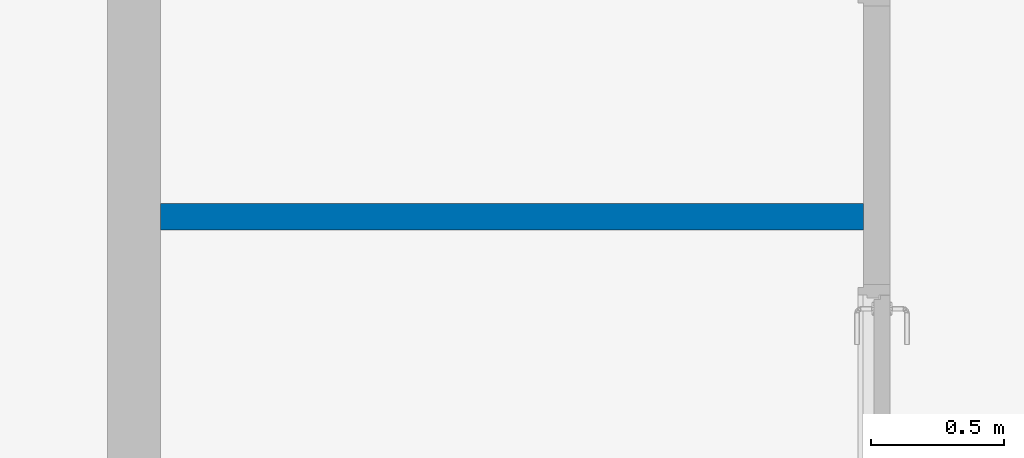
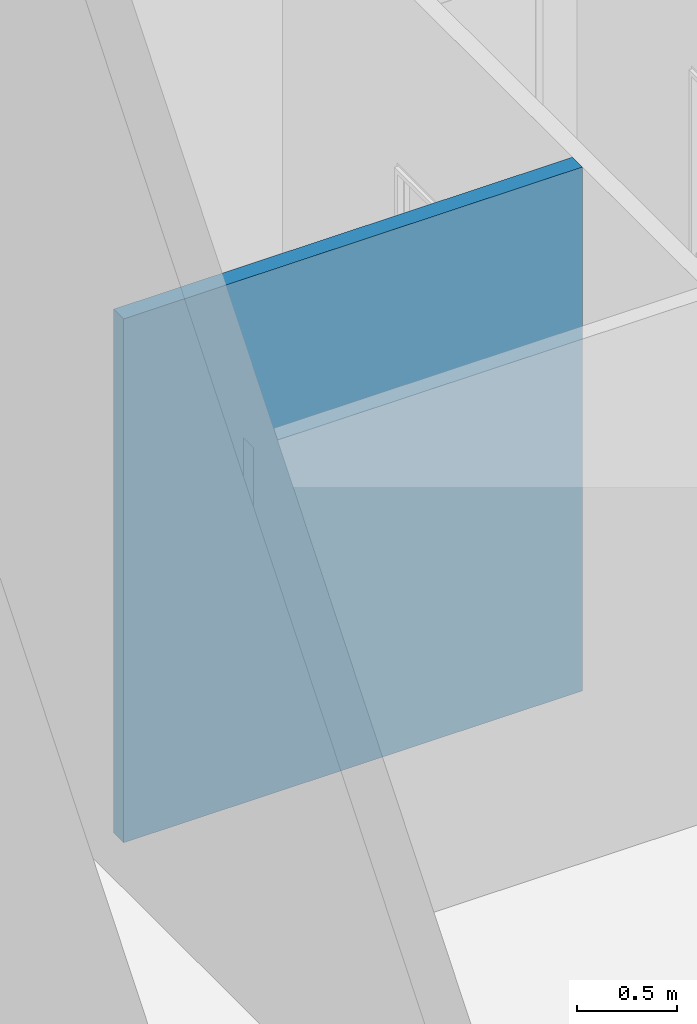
# One storey, part 13 of 23: 1 wall.
"""IFC2X3 building model written with IfcOpenShell, lengths in millimetres."""

from ifc_helpers import new_model, entity, si_unit, converted_unit, direction, frame, frame_2d, origin, place, context, subcontext, project, spatial, rectangle, extrude, material, layer, layer_set, layer_usage, type_object, element, save


model = new_model("IFC2X3")

# Units and contexts
model_context = context("Model", 3, precision=0.01, world=origin(), true_north=direction((6.123031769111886e-17, 1.0)))
body_context = subcontext(model_context, "Body", "Model", "MODEL_VIEW")
ifc_project = project(units=[si_unit("LENGTHUNIT", "METRE", prefix="MILLI"), converted_unit("PLANEANGLEUNIT", "DEGREE", entity("IfcPlaneAngleMeasure", 0.017453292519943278), si_unit("PLANEANGLEUNIT", "RADIAN"), dimensions=[0, 0, 0, 0, 0, 0, 0]), si_unit("AREAUNIT", "SQUARE_METRE")], contexts=[model_context])

# Site, building, storey
site_placement = place(None, frame((7776.576483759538, 118.3519876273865, 0.0)))
site = spatial("IfcSite", under=ifc_project, at=site_placement, Name="Default", CompositionType="ELEMENT")
building_placement = place(site_placement, origin())
building = spatial("IfcBuilding", under=site, at=building_placement, Name="Bygning (endres i Project Information)", CompositionType="ELEMENT")
storey_placement = place(building_placement, frame((0.0, 0.0, 19000.0)))
storey = spatial("IfcBuildingStorey", under=building, at=storey_placement, Name="Plan 01", CompositionType="ELEMENT", Elevation=19000.0)

# Wall
ifc_material = material(Name="Default Wall")
ifc_layer = layer(ifc_material, 100.0)
ifc_layer_set = layer_set([ifc_layer], Name="Basic Wall:Generic - 100mm")
ifc_layer_usage = layer_usage(ifc_layer_set, "AXIS2", "POSITIVE", -50.0)
wall_type = type_object("IfcWallType", Name="Basic Wall:Generic - 100mm", PredefinedType="STANDARD", material=ifc_layer_set)
wall_placement = place(storey_placement, frame((32224.001374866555, 26347.757305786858, 0.0)))
element("IfcWallStandardCase", 1, at=wall_placement, inside=storey, type_object=wall_type, material=ifc_layer_usage, Name="Basic Wall:Generic - 100mm", ObjectType="Basic Wall:Generic - 100mm", context=body_context, shape_type="SweptSolid", body=[
    extrude(rectangle(XDim=2649.9999999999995, YDim=100.00000000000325, at=frame_2d((1324.9999999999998, 8.526512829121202e-14), x_axis=(-1.0, 0.0))), origin(), (0.0, 0.0, 1.0), 3200.0),
])

save(model, "model.ifc")
